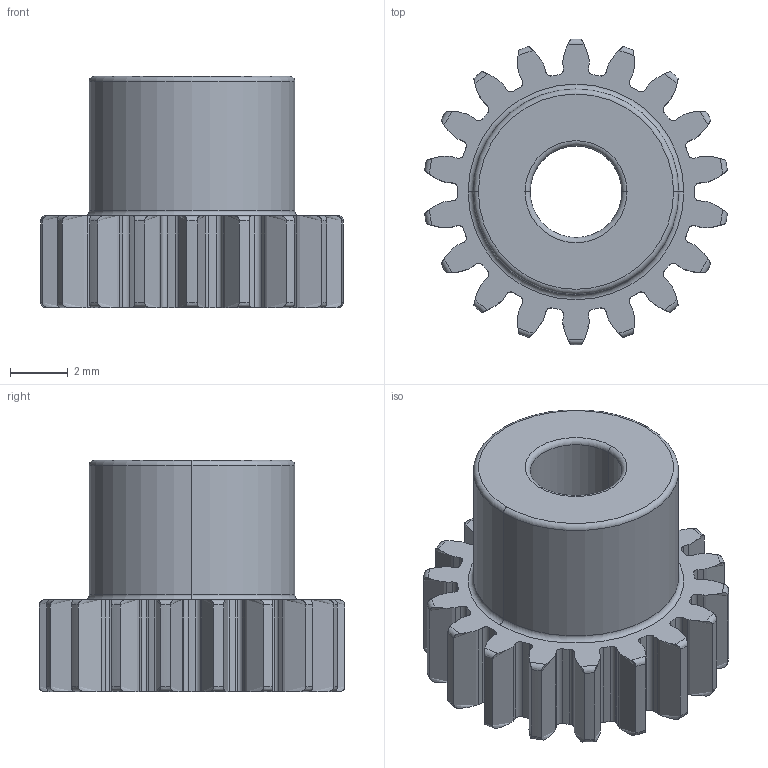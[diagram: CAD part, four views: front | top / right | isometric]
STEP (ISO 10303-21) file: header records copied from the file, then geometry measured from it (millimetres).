
FILE_DESCRIPTION (( 'STEP AP203' ), '1' );
FILE_NAME ('7880K19_Metal Gear - 20 Degree Pressure Angle.STEP', '2026-01-15T00:51:07', ( 'McMaster Carr Supply' ), ( 'McMaster Carr Supply' ), 'SwSTEP 2.0', 'SolidWorks 2024', '' );
FILE_SCHEMA (( 'CONFIG_CONTROL_DESIGN' ));
Length unit declared in the file: inch
Products named in the file (1): 7880K19_Metal Gear - 20 Degree Pressure Angle
Bounding box: 10.48 x 10.58 x 8 mm (x, y, z)
Volume: 348.4 mm3; surface area: 495.3 mm2
Topology: 1 solids, 1 shells, 206 faces, 601 edges, 398 vertices
Faces by surface type: cylinder 87, torus 44, plane 39, bspline 36
Entity records: 10642 total; most frequent: CARTESIAN_POINT 5274, ORIENTED_EDGE 1202, DIRECTION 1025, EDGE_CURVE 601, VERTEX_POINT 398, AXIS2_PLACEMENT_3D 397, LINE 231, VECTOR 231
